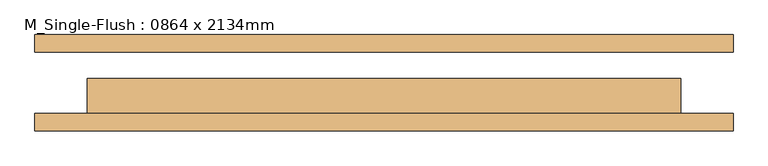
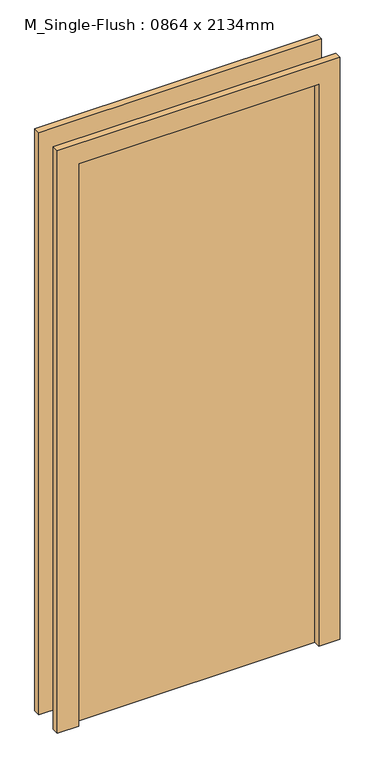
"""IFC4 building model written with IfcOpenShell, lengths in millimetres: door geometry, M_Single-Flush : 0864 x 2134mm."""

from ifc_helpers import new_model, si_unit, frame, origin, origin_with_axes, place, context, project, spatial, polyline, outline, extrude, source, transform, mapped, element, save


def m_single_flush_0864_x_2134mm_ac23343d(model_context):
    return source(origin(), model_context, "Body", "SweptSolid", [
        extrude(outline(polyline([(2210.0, -508.0), (0.0, -508.0), (0.0, -432.0), (2134.0, -432.0), (2134.0, 432.0), (0.0, 432.0), (0.0, 508.0), (2210.0, 508.0), (2210.0, -508.0)])), frame((0.0, -70.0, 0.0), z_axis=(0.0, 1.0, 0.0), x_axis=(0.0, 0.0, 1.0)), (0.0, 0.0, 1.0), 25.0),
        extrude(outline(polyline([(2210.0, 508.0), (2210.0, -508.0), (0.0, -508.0), (0.0, -432.0), (2134.0, -432.0), (2134.0, 432.0), (0.0, 432.0), (0.0, 508.0), (2210.0, 508.0)])), frame((0.0, 45.0, 0.0), z_axis=(0.0, 1.0, 0.0), x_axis=(0.0, 0.0, 1.0)), (0.0, 0.0, 1.0), 25.0),
        extrude(outline(polyline([(432.0, 6.0), (432.0, -45.0), (-432.0, -45.0), (-432.0, 6.0), (432.0, 6.0)])), origin_with_axes(), (0.0, 0.0, 1.0), 2134.0),
    ])


if __name__ == "__main__":
    model = new_model("IFC4")
    model_context = context("Model", 3, world=origin())
    ifc_project = project(units=[si_unit("LENGTHUNIT", "METRE", prefix="MILLI")], contexts=[model_context])
    site = spatial("IfcSite", under=ifc_project)
    building = spatial("IfcBuilding", under=site)
    placement = place(None, origin())
    m_single_flush_0864_x_2134mm_shape = m_single_flush_0864_x_2134mm_ac23343d(model_context)
    element("IfcDoor", 1, ObjectType="M_Single-Flush : 0864 x 2134mm", at=placement, inside=building, context=model_context, shape_type="MappedRepresentation", body=[
        mapped(m_single_flush_0864_x_2134mm_shape, transform((0.0, 0.0, 0.0), x_axis=(1.0, 0.0, 0.0), y_axis=(0.0, 1.0, 0.0), z_axis=(0.0, 0.0, 1.0))),
    ])
    save(model, "model.ifc")
